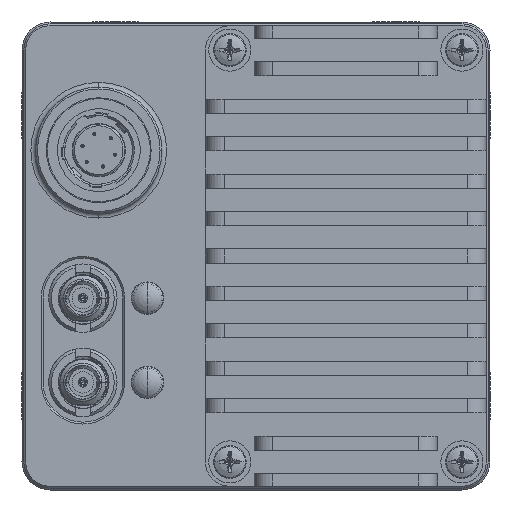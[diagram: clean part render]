
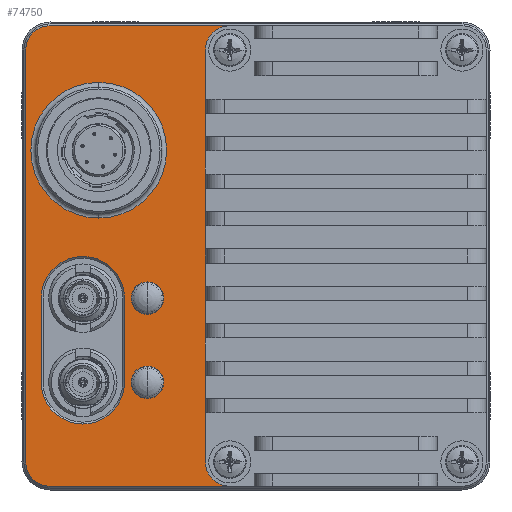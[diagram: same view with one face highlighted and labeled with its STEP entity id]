
A CAD part, left-side view. The second image highlights one B-rep face of the part: STEP entity #74750.
In plain terms, the highlighted planar face has unit normal (-1, 0, 0).
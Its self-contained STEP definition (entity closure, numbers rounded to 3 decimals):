
#342=DIRECTION('',(0.,0.,-1.));
#343=VECTOR('',#342,44.);
#344=CARTESIAN_POINT('',(-28.2,5.4,22.));
#345=LINE('',#344,#343);
#349=CARTESIAN_POINT('',(-28.2,2.8,-22.));
#350=DIRECTION('',(-1.,0.,0.));
#351=DIRECTION('',(0.,1.,0.));
#352=AXIS2_PLACEMENT_3D('',#349,#350,#351);
#357=DIRECTION('',(0.,-1.,0.));
#358=VECTOR('',#357,19.2);
#359=CARTESIAN_POINT('',(-28.2,22.,-24.6));
#360=LINE('',#359,#358);
#364=CARTESIAN_POINT('',(-28.2,22.,-22.));
#365=DIRECTION('',(-1.,0.,0.));
#366=DIRECTION('',(0.,1.,0.));
#367=AXIS2_PLACEMENT_3D('',#364,#365,#366);
#372=DIRECTION('',(0.,0.,-1.));
#373=VECTOR('',#372,44.);
#374=CARTESIAN_POINT('',(-28.2,24.6,22.));
#375=LINE('',#374,#373);
#379=CARTESIAN_POINT('',(-28.2,22.,22.));
#380=DIRECTION('',(-1.,0.,0.));
#381=DIRECTION('',(0.,0.,1.));
#382=AXIS2_PLACEMENT_3D('',#379,#380,#381);
#387=DIRECTION('',(0.,1.,0.));
#388=VECTOR('',#387,19.2);
#389=CARTESIAN_POINT('',(-28.2,2.8,24.6));
#390=LINE('',#389,#388);
#394=CARTESIAN_POINT('',(-28.2,2.8,22.));
#395=DIRECTION('',(1.,0.,0.));
#396=DIRECTION('',(0.,1.,0.));
#397=AXIS2_PLACEMENT_3D('',#394,#395,#396);
#402=CARTESIAN_POINT('',(-28.2,18.5,-13.5));
#403=DIRECTION('',(1.,0.,0.));
#404=DIRECTION('',(0.,-1.,0.));
#405=AXIS2_PLACEMENT_3D('',#402,#403,#404);
#410=DIRECTION('',(0.,0.,-1.));
#411=VECTOR('',#410,9.);
#412=CARTESIAN_POINT('',(-28.2,14.05,-4.5));
#413=LINE('',#412,#411);
#417=CARTESIAN_POINT('',(-28.2,18.5,-4.5));
#418=DIRECTION('',(1.,0.,0.));
#419=DIRECTION('',(0.,1.,0.));
#420=AXIS2_PLACEMENT_3D('',#417,#418,#419);
#425=DIRECTION('',(0.,0.,1.));
#426=VECTOR('',#425,9.);
#427=CARTESIAN_POINT('',(-28.2,22.95,-13.5));
#428=LINE('',#427,#426);
#432=CARTESIAN_POINT('',(-28.2,16.8,11.3));
#433=DIRECTION('',(-1.,0.,0.));
#434=DIRECTION('',(0.,0.,1.));
#435=AXIS2_PLACEMENT_3D('',#432,#433,#434);
#440=CARTESIAN_POINT('',(-28.2,16.8,11.3));
#441=DIRECTION('',(-1.,0.,0.));
#442=DIRECTION('',(0.,0.,-1.));
#443=AXIS2_PLACEMENT_3D('',#440,#441,#442);
#448=CARTESIAN_POINT('',(-28.2,11.6,-13.5));
#449=DIRECTION('',(-1.,0.,0.));
#450=DIRECTION('',(0.,0.,1.));
#451=AXIS2_PLACEMENT_3D('',#448,#449,#450);
#456=CARTESIAN_POINT('',(-28.2,11.6,-13.5));
#457=DIRECTION('',(-1.,0.,0.));
#458=DIRECTION('',(0.,0.,-1.));
#459=AXIS2_PLACEMENT_3D('',#456,#457,#458);
#464=CARTESIAN_POINT('',(-28.2,11.6,-4.5));
#465=DIRECTION('',(-1.,0.,0.));
#466=DIRECTION('',(0.,0.,1.));
#467=AXIS2_PLACEMENT_3D('',#464,#465,#466);
#472=CARTESIAN_POINT('',(-28.2,11.6,-4.5));
#473=DIRECTION('',(-1.,0.,0.));
#474=DIRECTION('',(0.,0.,-1.));
#475=AXIS2_PLACEMENT_3D('',#472,#473,#474);
#69769=CARTESIAN_POINT('',(-28.2,14.05,-13.5));
#69770=CARTESIAN_POINT('',(-28.2,22.95,-13.5));
#69771=VERTEX_POINT('',#69769);
#69772=VERTEX_POINT('',#69770);
#69777=CARTESIAN_POINT('',(-28.2,22.95,
-4.5));
#69778=VERTEX_POINT('',#69777);
#69781=CARTESIAN_POINT('',(-28.2,14.05,-4.5));
#69782=VERTEX_POINT('',#69781);
#69793=CARTESIAN_POINT('',(-28.2,24.6,-22.));
#69794=CARTESIAN_POINT('',(-28.2,22.,-24.6));
#69795=VERTEX_POINT('',#69793);
#69796=VERTEX_POINT('',#69794);
#69811=CARTESIAN_POINT('',(-28.2,22.,24.6));
#69812=CARTESIAN_POINT('',(-28.2,24.6,22.));
#69813=VERTEX_POINT('',#69811);
#69814=VERTEX_POINT('',#69812);
#69993=CARTESIAN_POINT('',(-28.2,16.8,18.55));
#69994=CARTESIAN_POINT('',(-28.2,16.8,4.05));
#69995=VERTEX_POINT('',#69993);
#69996=VERTEX_POINT('',#69994);
#72841=CARTESIAN_POINT('',(-28.2,5.4,22.));
#72842=CARTESIAN_POINT('',(-28.2,5.4,-22.));
#72843=VERTEX_POINT('',#72841);
#72844=VERTEX_POINT('',#72842);
#72846=CARTESIAN_POINT('',(-28.2,2.8,-24.6));
#72848=VERTEX_POINT('',#72846);
#72849=CARTESIAN_POINT('',(-28.2,2.8,24.6));
#72851=VERTEX_POINT('',#72849);
#72915=CARTESIAN_POINT('',(-28.2,11.6,-11.816));
#72916=CARTESIAN_POINT('',(-28.2,11.6,-15.184));
#72917=VERTEX_POINT('',#72915);
#72918=VERTEX_POINT('',#72916);
#73009=CARTESIAN_POINT('',(-28.2,11.6,-2.816));
#73010=CARTESIAN_POINT('',(-28.2,11.6,-6.184));
#73011=VERTEX_POINT('',#73009);
#73012=VERTEX_POINT('',#73010);
#74700=CARTESIAN_POINT('',(-28.2,0.,0.));
#74701=DIRECTION('',(1.,0.,0.));
#74702=DIRECTION('',(0.,-1.,0.));
#74703=AXIS2_PLACEMENT_3D('',#74700,#74701,#74702);
#74704=PLANE('',#74703);
#74706=ORIENTED_EDGE('',*,*,#74705,.T.);
#74708=ORIENTED_EDGE('',*,*,#74707,.T.);
#74710=ORIENTED_EDGE('',*,*,#74709,.F.);
#74712=ORIENTED_EDGE('',*,*,#74711,.F.);
#74714=ORIENTED_EDGE('',*,*,#74713,.F.);
#74716=ORIENTED_EDGE('',*,*,#74715,.F.);
#74717=ORIENTED_EDGE('',*,*,#74682,.F.);
#74719=ORIENTED_EDGE('',*,*,#74718,.F.);
#74720=EDGE_LOOP('',(#74706,#74708,#74710,#74712,#74714,#74716,#74717,#74719));
#74721=FACE_OUTER_BOUND('',#74720,.F.);
#74723=ORIENTED_EDGE('',*,*,#74722,.F.);
#74725=ORIENTED_EDGE('',*,*,#74724,.F.);
#74727=ORIENTED_EDGE('',*,*,#74726,.F.);
#74729=ORIENTED_EDGE('',*,*,#74728,.F.);
#74730=EDGE_LOOP('',(#74723,#74725,#74727,#74729));
#74731=FACE_BOUND('',#74730,.F.);
#74733=ORIENTED_EDGE('',*,*,#74732,.T.);
#74735=ORIENTED_EDGE('',*,*,#74734,.T.);
#74736=EDGE_LOOP('',(#74733,#74735));
#74737=FACE_BOUND('',#74736,.F.);
#74739=ORIENTED_EDGE('',*,*,#74738,.T.);
#74741=ORIENTED_EDGE('',*,*,#74740,.T.);
#74742=EDGE_LOOP('',(#74739,#74741));
#74743=FACE_BOUND('',#74742,.F.);
#74745=ORIENTED_EDGE('',*,*,#74744,.T.);
#74747=ORIENTED_EDGE('',*,*,#74746,.T.);
#74748=EDGE_LOOP('',(#74745,#74747));
#74749=FACE_BOUND('',#74748,.F.);
#353=CIRCLE('',#352,2.6);
#368=CIRCLE('',#367,2.6);
#383=CIRCLE('',#382,2.6);
#398=CIRCLE('',#397,2.6);
#406=CIRCLE('',#405,4.45);
#421=CIRCLE('',#420,4.45);
#436=CIRCLE('',#435,7.25);
#444=CIRCLE('',#443,7.25);
#452=CIRCLE('',#451,1.684);
#460=CIRCLE('',#459,1.684);
#468=CIRCLE('',#467,1.684);
#476=CIRCLE('',#475,1.684);
#74682=EDGE_CURVE('',#72851,#69813,#390,.T.);
#74705=EDGE_CURVE('',#72843,#72844,#345,.T.);
#74707=EDGE_CURVE('',#72844,#72848,#353,.T.);
#74709=EDGE_CURVE('',#69796,#72848,#360,.T.);
#74711=EDGE_CURVE('',#69795,#69796,#368,.T.);
#74713=EDGE_CURVE('',#69814,#69795,#375,.T.);
#74715=EDGE_CURVE('',#69813,#69814,#383,.T.);
#74718=EDGE_CURVE('',#72843,#72851,#398,.T.);
#74722=EDGE_CURVE('',#69771,#69772,#406,.T.);
#74724=EDGE_CURVE('',#69782,#69771,#413,.T.);
#74726=EDGE_CURVE('',#69778,#69782,#421,.T.);
#74728=EDGE_CURVE('',#69772,#69778,#428,.T.);
#74732=EDGE_CURVE('',#69995,#69996,#436,.T.);
#74734=EDGE_CURVE('',#69996,#69995,#444,.T.);
#74738=EDGE_CURVE('',#72917,#72918,#452,.T.);
#74740=EDGE_CURVE('',#72918,#72917,#460,.T.);
#74744=EDGE_CURVE('',#73011,#73012,#468,.T.);
#74746=EDGE_CURVE('',#73012,#73011,#476,.T.);
#74750=ADVANCED_FACE('',(#74721,#74731,#74737,#74743,#74749),#74704,.F.);
